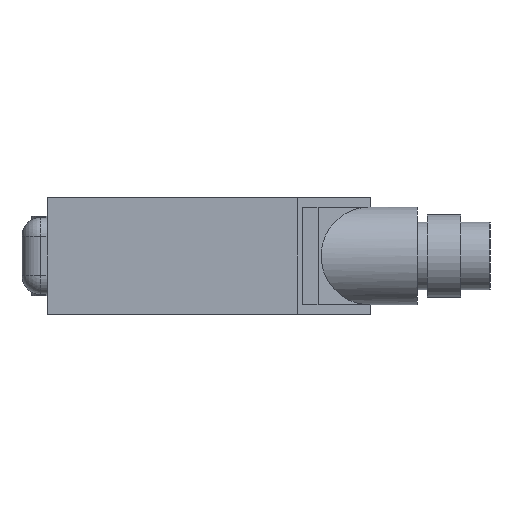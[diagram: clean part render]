
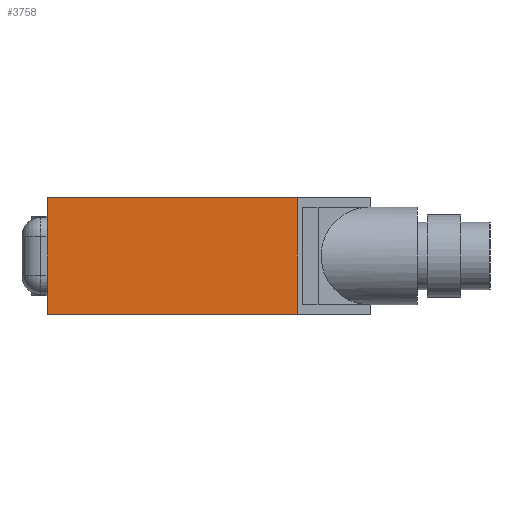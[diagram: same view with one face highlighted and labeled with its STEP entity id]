
A CAD part, left-side view. The second image highlights one B-rep face of the part: STEP entity #3758.
In plain terms, the highlighted planar face has unit normal (-1, 0, 0) as drawn and (1, 0, 0) by its records, which use the part's own axes.
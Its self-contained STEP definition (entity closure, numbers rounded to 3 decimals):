
#139 = DIRECTION ( 'NONE',  ( 0., -1., 0. ) ) ;
#140 = DIRECTION ( 'NONE',  ( -1., 0., 0. ) ) ;
#141 = CARTESIAN_POINT ( 'NONE',  ( 20., 0., 5.6 ) ) ;
#142 = AXIS2_PLACEMENT_3D ( 'NONE', #141, #140, #139 ) ;
#143 = PLANE ( 'NONE',  #142 ) ;
#144 = FACE_OUTER_BOUND ( 'NONE', #3757, .T. ) ;
#145 = DIRECTION ( 'NONE',  ( 0., 1., 0. ) ) ;
#146 = VECTOR ( 'NONE', #145, 1000. ) ;
#147 = CARTESIAN_POINT ( 'NONE',  ( 20., 0., -5.6 ) ) ;
#148 = LINE ( 'NONE', #147, #146 ) ;
#196 = DIRECTION ( 'NONE',  ( 0., 1., 0. ) ) ;
#197 = VECTOR ( 'NONE', #196, 1000. ) ;
#198 = CARTESIAN_POINT ( 'NONE',  ( 20., 0., 5.6 ) ) ;
#199 = LINE ( 'NONE', #198, #197 ) ;
#206 = CARTESIAN_POINT ( 'NONE',  ( 20., 0., 5.6 ) ) ;
#252 = CARTESIAN_POINT ( 'NONE',  ( 20., 0., -5.6 ) ) ;
#253 = DIRECTION ( 'NONE',  ( 0., 0., -1. ) ) ;
#254 = VECTOR ( 'NONE', #253, 1000. ) ;
#255 = CARTESIAN_POINT ( 'NONE',  ( 20., 0., 5.6 ) ) ;
#256 = LINE ( 'NONE', #255, #254 ) ;
#1270 = VERTEX_POINT ( 'NONE', #2889 ) ;
#1272 = EDGE_CURVE ( 'NONE', #1273, #1270, #2890, .T. ) ;
#1273 = VERTEX_POINT ( 'NONE', #2945 ) ;
#2889 = CARTESIAN_POINT ( 'NONE',  ( 20., -24., -5.6 ) ) ;
#2890 = LINE ( 'NONE', #2948, #2947 ) ;
#2945 = CARTESIAN_POINT ( 'NONE',  ( 20., -24., 5.6 ) ) ;
#2946 = DIRECTION ( 'NONE',  ( 0., 0., -1. ) ) ;
#2947 = VECTOR ( 'NONE', #2946, 1000. ) ;
#2948 = CARTESIAN_POINT ( 'NONE',  ( 20., -24., 55.193 ) ) ;
#3754 = ORIENTED_EDGE ( 'NONE', *, *, #3755, .T. ) ;
#3755 = EDGE_CURVE ( 'NONE', #1270, #3807, #148, .T. ) ;
#3756 = ORIENTED_EDGE ( 'NONE', *, *, #1272, .T. ) ;
#3757 = EDGE_LOOP ( 'NONE', ( #3756, #3754, #3805, #3779 ) ) ;
#3758 = ADVANCED_FACE ( 'NONE', ( #144 ), #143, .F. ) ;
#3779 = ORIENTED_EDGE ( 'NONE', *, *, #3802, .F. ) ;
#3797 = VERTEX_POINT ( 'NONE', #206 ) ;
#3802 = EDGE_CURVE ( 'NONE', #1273, #3797, #199, .T. ) ;
#3804 = EDGE_CURVE ( 'NONE', #3797, #3807, #256, .T. ) ;
#3805 = ORIENTED_EDGE ( 'NONE', *, *, #3804, .F. ) ;
#3807 = VERTEX_POINT ( 'NONE', #252 ) ;
